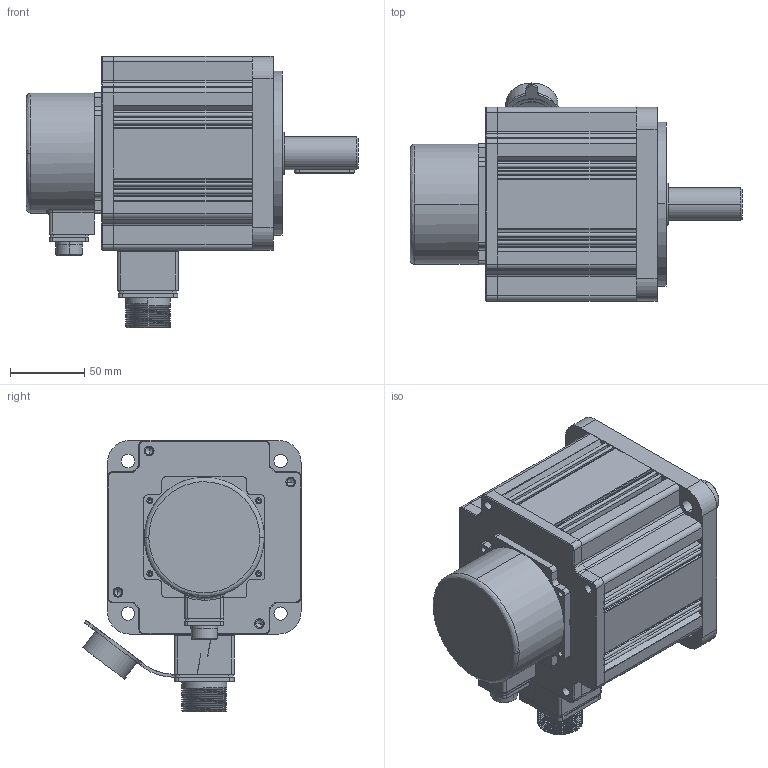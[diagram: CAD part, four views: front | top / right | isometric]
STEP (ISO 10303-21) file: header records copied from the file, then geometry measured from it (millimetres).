
FILE_DESCRIPTION (( 'STEP AP214' ), '1' );
FILE_NAME ('130ÐÍ1.5KW²»´øÖÆ¶¯ÍâÐÎ³ß´ç.STEP', '2018-06-22T08:47:27', ( '' ), ( '' ), 'SwSTEP 2.0', 'SolidWorks 2015', '' );
FILE_SCHEMA (( 'AUTOMOTIVE_DESIGN' ));
Length unit declared in the file: millimetre
Products named in the file (1): 130型1.5KW不带制动外形尺寸
Bounding box: 222.9 x 146.5 x 182.01 mm (x, y, z)
Volume: 1706842.2 mm3; surface area: 271660.1 mm2
Topology: 2 solids, 4 shells, 1303 faces, 3505 edges, 2267 vertices
Faces by surface type: cylinder 652, plane 415, bspline 163, cone 73
Entity records: 61801 total; most frequent: CARTESIAN_POINT 24350, ORIENTED_EDGE 6926, DIRECTION 6657, EDGE_CURVE 3463, AXIS2_PLACEMENT_3D 2535, VERTEX_POINT 2267, VECTOR 1587, LINE 1587
